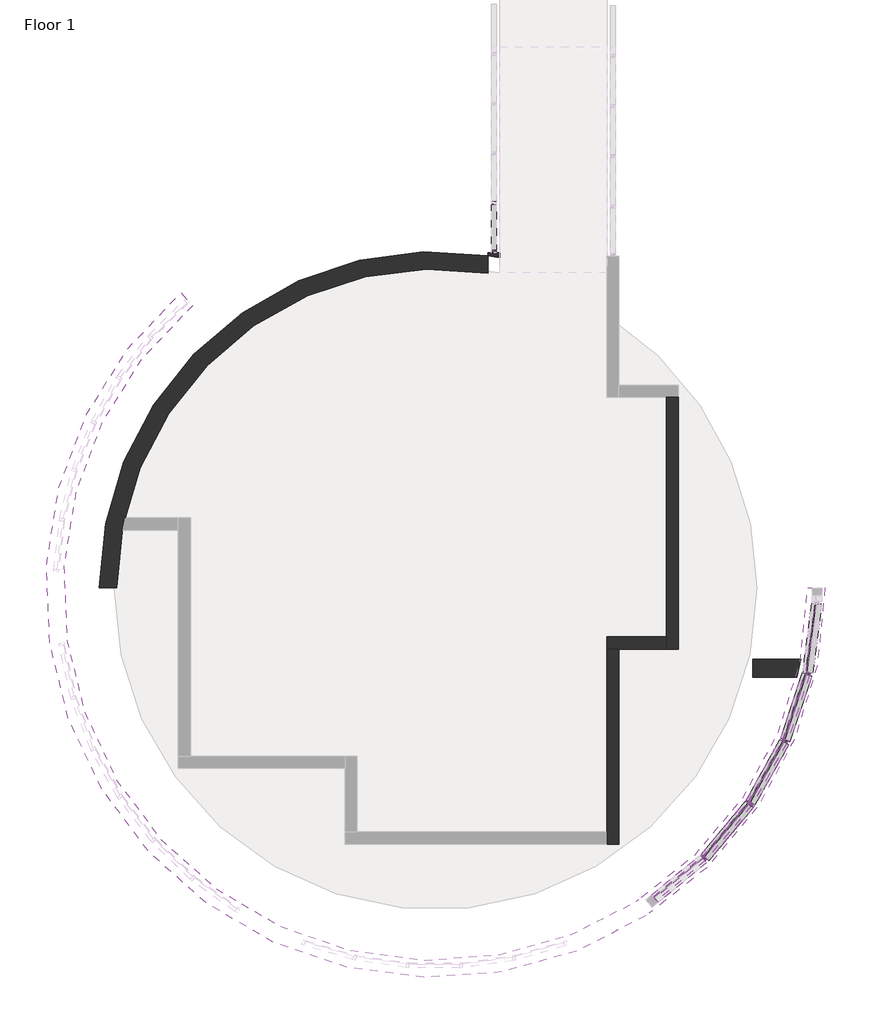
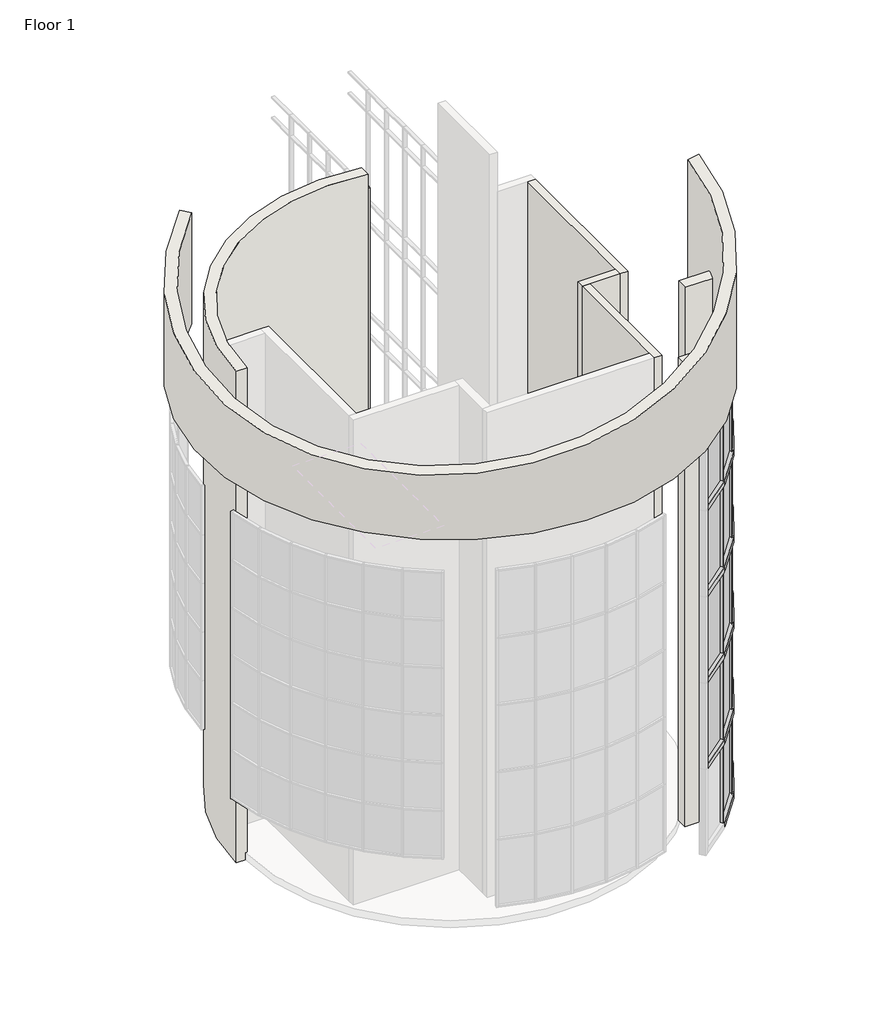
# One storey, part 6 of 11: 61 members, 24 plates, 8 walls.
"""IFC4 building model written with IfcOpenShell, lengths in millimetres."""

from ifc_helpers import new_model, si_unit, point, frame, frame_2d, origin, origin_with_axes, place, context, project, spatial, polyline, circle_curve, ellipse_curve, trimmed, segment, composite_curve, outline, extrude, faceted_brep, transform, mapped, element, save
from ifc_brep_helpers import plane_surface, cylinder_surface, revolved_surface, advanced_brep
from components import member_60e3aab2, member_5d07894b, member_c86c7f77, member_810865a4, member_5825c931, member_c2dac231, member_b9454cfc, member_923d5781, member_c17f1be2, member_d2e7e466, member_bbf28ac8, member_5c8c9790, member_136c1585, member_707c4438, member_7751821a, member_84ccbaea, member_b2bf14c7, system_panel_glazed_00caa3d2, system_panel_glazed_ff630af2, system_panel_glazed_6c0831e3, system_panel_glazed_52effc56, system_panel_glazed_ae73c78b

model = new_model("IFC4")

# Units and contexts
model_context = context("Model", 3, world=origin())
ifc_project = project(units=[si_unit("LENGTHUNIT", "METRE", prefix="MILLI")], contexts=[model_context])

# Site, building, storey
site = spatial("IfcSite", under=ifc_project)
building = spatial("IfcBuilding", under=site)
storey = spatial("IfcBuildingStorey", under=building, Name="Floor 1", Elevation=0.0)

# Members
placement = place(None, origin())
member_shape = member_60e3aab2(model_context)
element("IfcMember", 1, ObjectType="Rectangular Mullion1 : 2.5\" x 5\" rectangular", at=placement, inside=storey, context=model_context, shape_type="MappedRepresentation", body=[
    mapped(member_shape, transform((7830.8276119, 27918.5201792, -152.4), x_axis=(0.0, 0.0, -1.0), y_axis=(1.0, 0.0, 0.0), z_axis=(0.0, -1.0, 0.0))),
])
member_2_shape = member_5d07894b(model_context)
element("IfcMember", 2, ObjectType="Rectangular Mullion1 : 2.5\" x 5\" rectangular", at=placement, inside=storey, context=model_context, shape_type="MappedRepresentation", body=[
    mapped(member_2_shape, transform((7830.8276119, 29189.5191429, -88.9), x_axis=(0.0, 1.0, 0.0), y_axis=(1.0, 0.0, 0.0), z_axis=(0.0, 0.0, -1.0))),
])
member_3_shape = member_c86c7f77(model_context)
element("IfcMember", 3, ObjectType="Rectangular Mullion1 : 2.5\" x 5\" rectangular", at=placement, inside=storey, context=model_context, shape_type="MappedRepresentation", body=[
    mapped(member_3_shape, transform((7830.8276119, 29189.5191429, 5486.4), x_axis=(0.0, 0.0, 1.0), y_axis=(1.0, 0.0, 0.0), z_axis=(0.0, 1.0, 0.0))),
])
element("IfcMember", 4, ObjectType="Rectangular Mullion1 : 2.5\" x 5\" rectangular", at=placement, inside=storey, context=model_context, shape_type="MappedRepresentation", body=[
    mapped(member_3_shape, transform((7830.8276119, 29189.5191429, 10210.8), x_axis=(0.0, 0.0, 1.0), y_axis=(1.0, 0.0, 0.0), z_axis=(0.0, 1.0, 0.0))),
])
element("IfcMember", 5, ObjectType="Rectangular Mullion1 : 2.5\" x 5\" rectangular", at=placement, inside=storey, context=model_context, shape_type="MappedRepresentation", body=[
    mapped(member_3_shape, transform((7830.8276119, 29189.5191429, 14935.2), x_axis=(0.0, 0.0, 1.0), y_axis=(1.0, 0.0, 0.0), z_axis=(0.0, 1.0, 0.0))),
])
element("IfcMember", 6, ObjectType="Rectangular Mullion1 : 2.5\" x 5\" rectangular", at=placement, inside=storey, context=model_context, shape_type="MappedRepresentation", body=[
    mapped(member_3_shape, transform((7830.8276119, 29189.5191429, 18745.2), x_axis=(0.0, 0.0, 1.0), y_axis=(1.0, 0.0, 0.0), z_axis=(0.0, 1.0, 0.0))),
])
element("IfcMember", 7, ObjectType="Rectangular Mullion1 : 2.5\" x 5\" rectangular", at=placement, inside=storey, context=model_context, shape_type="MappedRepresentation", body=[
    mapped(member_3_shape, transform((7830.8276119, 29189.5191429, 14020.8), x_axis=(0.0, 0.0, 1.0), y_axis=(1.0, 0.0, 0.0), z_axis=(0.0, 1.0, 0.0))),
])
element("IfcMember", 8, ObjectType="Rectangular Mullion1 : 2.5\" x 5\" rectangular", at=placement, inside=storey, context=model_context, shape_type="MappedRepresentation", body=[
    mapped(member_3_shape, transform((7830.8276119, 29189.5191429, 9296.4), x_axis=(0.0, 0.0, 1.0), y_axis=(1.0, 0.0, 0.0), z_axis=(0.0, 1.0, 0.0))),
])
element("IfcMember", 9, ObjectType="Rectangular Mullion1 : 2.5\" x 5\" rectangular", at=placement, inside=storey, context=model_context, shape_type="MappedRepresentation", body=[
    mapped(member_3_shape, transform((7830.8276119, 29189.5191429, 4572.0), x_axis=(0.0, 0.0, 1.0), y_axis=(1.0, 0.0, 0.0), z_axis=(0.0, 1.0, 0.0))),
])
member_4_shape = member_810865a4(model_context)
element("IfcMember", 10, ObjectType="Rectangular Mullion1 : 2.5\" x 5\" rectangular", at=placement, inside=storey, context=model_context, shape_type="MappedRepresentation", body=[
    mapped(member_4_shape, transform((13215.7892614, 12420.6743891, 0.0), x_axis=(0.7115792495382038, 0.7026058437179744, 0.0), y_axis=(0.7026058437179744, -0.7115792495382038, 0.0), z_axis=(0.0, 0.0, -1.0))),
])
element("IfcMember", 11, ObjectType="Rectangular Mullion1 : 2.5\" x 5\" rectangular", at=placement, inside=storey, context=model_context, shape_type="MappedRepresentation", body=[
    mapped(member_4_shape, transform((15282.1684229, 15418.9839138, 0.0), x_axis=(0.4032933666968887, 0.9150707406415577, 0.0), y_axis=(0.9150707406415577, -0.4032933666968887, 0.0), z_axis=(0.0, 0.0, -1.0))),
])
element("IfcMember", 12, ObjectType="Rectangular Mullion1 : 2.5\" x 5\" rectangular", at=placement, inside=storey, context=model_context, shape_type="MappedRepresentation", body=[
    mapped(member_4_shape, transform((15859.1061134, 17154.3952027, 0.0), x_axis=(0.2248585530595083, 0.9743914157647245, 0.0), y_axis=(0.9743914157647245, -0.2248585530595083, 0.0), z_axis=(0.0, 0.0, -1.0))),
])
member_5_shape = member_5825c931(model_context)
element("IfcMember", 13, ObjectType="Rectangular Mullion1 : 2.5\" x 5\" rectangular", at=placement, inside=storey, context=model_context, shape_type="MappedRepresentation", body=[
    mapped(member_5_shape, transform((14390.5542634, 13822.2580042, 0.0), x_axis=(0.5674685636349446, 0.8233950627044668, 0.0), y_axis=(0.8233950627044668, -0.5674685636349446, 0.0), z_axis=(0.0, 0.0, -1.0))),
])
member_6_shape = member_c2dac231(model_context)
element("IfcMember", 14, ObjectType="Rectangular Mullion1 : 2.5\" x 5\" rectangular", at=placement, inside=storey, context=model_context, shape_type="MappedRepresentation", body=[
    mapped(member_6_shape, transform((13191.1993553, 12400.5895935, 17373.6), x_axis=(0.0, 0.0, 1.0), y_axis=(0.6325919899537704, -0.7744852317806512, 0.0), z_axis=(0.7744852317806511, 0.6325919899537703, 0.0))),
])
member_7_shape = member_b9454cfc(model_context)
element("IfcMember", 15, ObjectType="Rectangular Mullion1 : 2.5\" x 5\" rectangular", at=placement, inside=storey, context=model_context, shape_type="MappedRepresentation", body=[
    mapped(member_7_shape, transform((14370.1590376, 13797.9249554, 17373.6), x_axis=(0.0, 0.0, 1.0), y_axis=(0.7663952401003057, -0.6423693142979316, 0.0), z_axis=(0.6423693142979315, 0.7663952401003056, 0.0))),
])
element("IfcMember", 16, ObjectType="Rectangular Mullion1 : 2.5\" x 5\" rectangular", at=placement, inside=storey, context=model_context, shape_type="MappedRepresentation", body=[
    mapped(member_7_shape, transform((15266.6890104, 15391.2629779, 17373.6), x_axis=(0.0, 0.0, 1.0), y_axis=(0.8731003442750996, -0.4875405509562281, 0.0), z_axis=(0.4875405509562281, 0.8731003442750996, 0.0))),
])
element("IfcMember", 17, ObjectType="Rectangular Mullion1 : 2.5\" x 5\" rectangular", at=placement, inside=storey, context=model_context, shape_type="MappedRepresentation", body=[
    mapped(member_7_shape, transform((15849.089834, 17124.2665345, 17373.6), x_axis=(0.0, 0.0, 1.0), y_axis=(0.9489344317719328, -0.3154733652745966, 0.0), z_axis=(0.3154733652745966, 0.9489344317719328, 0.0))),
])
element("IfcMember", 18, ObjectType="Rectangular Mullion1 : 2.5\" x 5\" rectangular", at=placement, inside=storey, context=model_context, shape_type="MappedRepresentation", body=[
    mapped(member_4_shape, transform((13215.7892614, 12420.6743891, 3657.6), x_axis=(0.7115792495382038, 0.7026058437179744, 0.0), y_axis=(0.7026058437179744, -0.7115792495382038, 0.0), z_axis=(0.0, 0.0, -1.0))),
])
element("IfcMember", 19, ObjectType="Rectangular Mullion1 : 2.5\" x 5\" rectangular", at=placement, inside=storey, context=model_context, shape_type="MappedRepresentation", body=[
    mapped(member_4_shape, transform((13215.7892614, 12420.6743891, 7315.2), x_axis=(0.7115792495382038, 0.7026058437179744, 0.0), y_axis=(0.7026058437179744, -0.7115792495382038, 0.0), z_axis=(0.0, 0.0, -1.0))),
])
element("IfcMember", 20, ObjectType="Rectangular Mullion1 : 2.5\" x 5\" rectangular", at=placement, inside=storey, context=model_context, shape_type="MappedRepresentation", body=[
    mapped(member_4_shape, transform((13215.7892614, 12420.6743891, 10972.8), x_axis=(0.7115792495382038, 0.7026058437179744, 0.0), y_axis=(0.7026058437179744, -0.7115792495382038, 0.0), z_axis=(0.0, 0.0, -1.0))),
])
element("IfcMember", 21, ObjectType="Rectangular Mullion1 : 2.5\" x 5\" rectangular", at=placement, inside=storey, context=model_context, shape_type="MappedRepresentation", body=[
    mapped(member_4_shape, transform((14390.5542634, 13822.2580042, 7315.2), x_axis=(0.5674685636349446, 0.8233950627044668, 0.0), y_axis=(0.8233950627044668, -0.5674685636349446, 0.0), z_axis=(0.0, 0.0, -1.0))),
])
element("IfcMember", 22, ObjectType="Rectangular Mullion1 : 2.5\" x 5\" rectangular", at=placement, inside=storey, context=model_context, shape_type="MappedRepresentation", body=[
    mapped(member_4_shape, transform((14390.5542634, 13822.2580042, 10972.8), x_axis=(0.5674685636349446, 0.8233950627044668, 0.0), y_axis=(0.8233950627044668, -0.5674685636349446, 0.0), z_axis=(0.0, 0.0, -1.0))),
])
element("IfcMember", 23, ObjectType="Rectangular Mullion1 : 2.5\" x 5\" rectangular", at=placement, inside=storey, context=model_context, shape_type="MappedRepresentation", body=[
    mapped(member_4_shape, transform((15282.1684229, 15418.9839138, 3657.6), x_axis=(0.4032933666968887, 0.9150707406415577, 0.0), y_axis=(0.9150707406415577, -0.4032933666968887, 0.0), z_axis=(0.0, 0.0, -1.0))),
])
element("IfcMember", 24, ObjectType="Rectangular Mullion1 : 2.5\" x 5\" rectangular", at=placement, inside=storey, context=model_context, shape_type="MappedRepresentation", body=[
    mapped(member_4_shape, transform((15282.1684229, 15418.9839138, 7315.2), x_axis=(0.4032933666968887, 0.9150707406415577, 0.0), y_axis=(0.9150707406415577, -0.4032933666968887, 0.0), z_axis=(0.0, 0.0, -1.0))),
])
element("IfcMember", 25, ObjectType="Rectangular Mullion1 : 2.5\" x 5\" rectangular", at=placement, inside=storey, context=model_context, shape_type="MappedRepresentation", body=[
    mapped(member_4_shape, transform((15282.1684229, 15418.9839138, 10972.8), x_axis=(0.4032933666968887, 0.9150707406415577, 0.0), y_axis=(0.9150707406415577, -0.4032933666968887, 0.0), z_axis=(0.0, 0.0, -1.0))),
])
element("IfcMember", 26, ObjectType="Rectangular Mullion1 : 2.5\" x 5\" rectangular", at=placement, inside=storey, context=model_context, shape_type="MappedRepresentation", body=[
    mapped(member_4_shape, transform((15859.1061134, 17154.3952027, 3657.6), x_axis=(0.2248585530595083, 0.9743914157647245, 0.0), y_axis=(0.9743914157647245, -0.2248585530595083, 0.0), z_axis=(0.0, 0.0, -1.0))),
])
element("IfcMember", 27, ObjectType="Rectangular Mullion1 : 2.5\" x 5\" rectangular", at=placement, inside=storey, context=model_context, shape_type="MappedRepresentation", body=[
    mapped(member_4_shape, transform((15859.1061134, 17154.3952027, 7315.2), x_axis=(0.2248585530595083, 0.9743914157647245, 0.0), y_axis=(0.9743914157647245, -0.2248585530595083, 0.0), z_axis=(0.0, 0.0, -1.0))),
])
element("IfcMember", 28, ObjectType="Rectangular Mullion1 : 2.5\" x 5\" rectangular", at=placement, inside=storey, context=model_context, shape_type="MappedRepresentation", body=[
    mapped(member_4_shape, transform((15859.1061134, 17154.3952027, 10972.8), x_axis=(0.2248585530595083, 0.9743914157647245, 0.0), y_axis=(0.9743914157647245, -0.2248585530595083, 0.0), z_axis=(0.0, 0.0, -1.0))),
])
member_8_shape = member_923d5781(model_context)
element("IfcMember", 29, ObjectType="Rectangular Mullion1 : 2.5\" x 5\" rectangular", at=placement, inside=storey, context=model_context, shape_type="MappedRepresentation", body=[
    mapped(member_8_shape, transform((13215.7892614, 12420.6743891, 14630.4), x_axis=(0.7115792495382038, 0.7026058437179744, 0.0), y_axis=(0.7026058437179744, -0.7115792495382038, 0.0), z_axis=(0.0, 0.0, -1.0))),
])
element("IfcMember", 30, ObjectType="Rectangular Mullion1 : 2.5\" x 5\" rectangular", at=placement, inside=storey, context=model_context, shape_type="MappedRepresentation", body=[
    mapped(member_8_shape, transform((14390.5542634, 13822.2580042, 14630.4), x_axis=(0.5674685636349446, 0.8233950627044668, 0.0), y_axis=(0.8233950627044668, -0.5674685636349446, 0.0), z_axis=(0.0, 0.0, -1.0))),
])
element("IfcMember", 31, ObjectType="Rectangular Mullion1 : 2.5\" x 5\" rectangular", at=placement, inside=storey, context=model_context, shape_type="MappedRepresentation", body=[
    mapped(member_8_shape, transform((15282.1684229, 15418.9839138, 14630.4), x_axis=(0.4032933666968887, 0.9150707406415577, 0.0), y_axis=(0.9150707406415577, -0.4032933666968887, 0.0), z_axis=(0.0, 0.0, -1.0))),
])
element("IfcMember", 32, ObjectType="Rectangular Mullion1 : 2.5\" x 5\" rectangular", at=placement, inside=storey, context=model_context, shape_type="MappedRepresentation", body=[
    mapped(member_8_shape, transform((15859.1061134, 17154.3952027, 14630.4), x_axis=(0.2248585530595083, 0.9743914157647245, 0.0), y_axis=(0.9743914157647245, -0.2248585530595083, 0.0), z_axis=(0.0, 0.0, -1.0))),
])
element("IfcMember", 33, ObjectType="Rectangular Mullion1 : 2.5\" x 5\" rectangular", at=placement, inside=storey, context=model_context, shape_type="MappedRepresentation", body=[
    mapped(member_5_shape, transform((14390.5542634, 13822.2580042, 3759.2), x_axis=(0.5674685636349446, 0.8233950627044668, 0.0), y_axis=(0.8233950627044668, -0.5674685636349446, 0.0), z_axis=(0.0, 0.0, -1.0))),
])
member_9_shape = member_c17f1be2(model_context)
element("IfcMember", 34, ObjectType="Rectangular Mullion1 : 2.5\" x 5\" rectangular", at=placement, inside=storey, context=model_context, shape_type="MappedRepresentation", body=[
    mapped(member_9_shape, transform((7830.8276119, 27918.5201792, 19596.1), x_axis=(0.0, -1.0, 0.0), y_axis=(1.0, 0.0, 0.0), z_axis=(0.0, 0.0, 1.0))),
])
member_10_shape = member_d2e7e466(model_context)
element("IfcMember", 35, ObjectType="Rectangular Mullion1 : 2.5\" x 5\" rectangular", at=placement, inside=storey, context=model_context, shape_type="MappedRepresentation", body=[
    mapped(member_10_shape, transform((7830.8276119, 27918.5201792, 5454.65), x_axis=(0.0, -1.0, 0.0), y_axis=(1.0, 0.0, 0.0), z_axis=(0.0, 0.0, 1.0))),
])
element("IfcMember", 36, ObjectType="Rectangular Mullion1 : 2.5\" x 5\" rectangular", at=placement, inside=storey, context=model_context, shape_type="MappedRepresentation", body=[
    mapped(member_10_shape, transform((7830.8276119, 27918.5201792, 10179.05), x_axis=(0.0, -1.0, 0.0), y_axis=(1.0, 0.0, 0.0), z_axis=(0.0, 0.0, 1.0))),
])
element("IfcMember", 37, ObjectType="Rectangular Mullion1 : 2.5\" x 5\" rectangular", at=placement, inside=storey, context=model_context, shape_type="MappedRepresentation", body=[
    mapped(member_10_shape, transform((7830.8276119, 27918.5201792, 14903.45), x_axis=(0.0, -1.0, 0.0), y_axis=(1.0, 0.0, 0.0), z_axis=(0.0, 0.0, 1.0))),
])
member_11_shape = member_bbf28ac8(model_context)
element("IfcMember", 38, ObjectType="Rectangular Mullion1 : 2.5\" x 5\" rectangular", at=placement, inside=storey, context=model_context, shape_type="MappedRepresentation", body=[
    mapped(member_11_shape, transform((7830.8276119, 27918.5201792, 18713.45), x_axis=(0.0, -1.0, 0.0), y_axis=(1.0, 0.0, 0.0), z_axis=(0.0, 0.0, 1.0))),
])
element("IfcMember", 39, ObjectType="Rectangular Mullion1 : 2.5\" x 5\" rectangular", at=placement, inside=storey, context=model_context, shape_type="MappedRepresentation", body=[
    mapped(member_11_shape, transform((7830.8276119, 27918.5201792, 13989.05), x_axis=(0.0, -1.0, 0.0), y_axis=(1.0, 0.0, 0.0), z_axis=(0.0, 0.0, 1.0))),
])
element("IfcMember", 40, ObjectType="Rectangular Mullion1 : 2.5\" x 5\" rectangular", at=placement, inside=storey, context=model_context, shape_type="MappedRepresentation", body=[
    mapped(member_11_shape, transform((7830.8276119, 27918.5201792, 9264.65), x_axis=(0.0, -1.0, 0.0), y_axis=(1.0, 0.0, 0.0), z_axis=(0.0, 0.0, 1.0))),
])
member_12_shape = member_5c8c9790(model_context)
element("IfcMember", 41, ObjectType="Rectangular Mullion1 : 2.5\" x 5\" rectangular", at=placement, inside=storey, context=model_context, shape_type="MappedRepresentation", body=[
    mapped(member_12_shape, transform((7830.8276119, 27918.5201792, 4540.25), x_axis=(0.0, -1.0, 0.0), y_axis=(1.0, 0.0, 0.0), z_axis=(0.0, 0.0, 1.0))),
])
member_13_shape = member_136c1585(model_context)
element("IfcMember", 42, ObjectType="Rectangular Mullion1 : 8\" x 10\" rectangular", at=placement, inside=storey, context=model_context, shape_type="MappedRepresentation", body=[
    mapped(member_13_shape, transform((15863.3051047, 17185.866316, 0.0), x_axis=(0.0, 0.0, -1.0), y_axis=(0.9912161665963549, -0.13225169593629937, 0.0), z_axis=(-0.13225169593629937, -0.9912161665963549, 0.0))),
])
element("IfcMember", 43, ObjectType="Rectangular Mullion1 : 8\" x 10\" rectangular", at=placement, inside=storey, context=model_context, shape_type="MappedRepresentation", body=[
    mapped(member_13_shape, transform((15292.1847023, 15449.112582, 0.0), x_axis=(0.0, 0.0, -1.0), y_axis=(0.948934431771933, -0.3154733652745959, 0.0), z_axis=(-0.31547336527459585, -0.9489344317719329, 0.0))),
])
element("IfcMember", 44, ObjectType="Rectangular Mullion1 : 8\" x 10\" rectangular", at=placement, inside=storey, context=model_context, shape_type="MappedRepresentation", body=[
    mapped(member_13_shape, transform((14406.0336758, 13849.9789402, 0.0), x_axis=(0.0, 0.0, -1.0), y_axis=(0.8731003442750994, -0.48754055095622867, 0.0), z_axis=(-0.4875405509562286, -0.8731003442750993, 0.0))),
])
element("IfcMember", 45, ObjectType="Rectangular Mullion1 : 8\" x 10\" rectangular", at=placement, inside=storey, context=model_context, shape_type="MappedRepresentation", body=[
    mapped(member_13_shape, transform((13236.1844871, 12445.007438, 0.0), x_axis=(0.0, 0.0, -1.0), y_axis=(0.7663952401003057, -0.6423693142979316, 0.0), z_axis=(-0.6423693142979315, -0.7663952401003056, 0.0))),
])
member_14_shape = member_707c4438(model_context)
element("IfcMember", 46, ObjectType="Rectangular Mullion1 : 8\" x 10\" rectangular", at=placement, inside=storey, context=model_context, shape_type="MappedRepresentation", body=[
    mapped(member_14_shape, transform((15849.089834, 17124.2665345, 3657.6), x_axis=(0.0, 0.0, 1.0), y_axis=(0.948934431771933, -0.3154733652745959, 0.0), z_axis=(0.31547336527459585, 0.9489344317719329, 0.0))),
])
element("IfcMember", 47, ObjectType="Rectangular Mullion1 : 8\" x 10\" rectangular", at=placement, inside=storey, context=model_context, shape_type="MappedRepresentation", body=[
    mapped(member_14_shape, transform((15849.089834, 17124.2665345, 7315.2), x_axis=(0.0, 0.0, 1.0), y_axis=(0.9489344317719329, -0.31547336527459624, 0.0), z_axis=(0.3154733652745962, 0.9489344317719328, 0.0))),
])
element("IfcMember", 48, ObjectType="Rectangular Mullion1 : 8\" x 10\" rectangular", at=placement, inside=storey, context=model_context, shape_type="MappedRepresentation", body=[
    mapped(member_14_shape, transform((15849.089834, 17124.2665345, 10972.8), x_axis=(0.0, 0.0, 1.0), y_axis=(0.9489344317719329, -0.31547336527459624, 0.0), z_axis=(0.3154733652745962, 0.9489344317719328, 0.0))),
])
element("IfcMember", 49, ObjectType="Rectangular Mullion1 : 8\" x 10\" rectangular", at=placement, inside=storey, context=model_context, shape_type="MappedRepresentation", body=[
    mapped(member_14_shape, transform((15266.6890104, 15391.2629779, 10972.8), x_axis=(0.0, 0.0, 1.0), y_axis=(0.8731003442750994, -0.48754055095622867, 0.0), z_axis=(0.4875405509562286, 0.8731003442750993, 0.0))),
])
element("IfcMember", 50, ObjectType="Rectangular Mullion1 : 8\" x 10\" rectangular", at=placement, inside=storey, context=model_context, shape_type="MappedRepresentation", body=[
    mapped(member_14_shape, transform((14370.1590376, 13797.9249554, 10972.8), x_axis=(0.0, 0.0, 1.0), y_axis=(0.7663952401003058, -0.6423693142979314, 0.0), z_axis=(0.6423693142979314, 0.7663952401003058, 0.0))),
])
member_15_shape = member_7751821a(model_context)
element("IfcMember", 51, ObjectType="Rectangular Mullion1 : 8\" x 10\" rectangular", at=placement, inside=storey, context=model_context, shape_type="MappedRepresentation", body=[
    mapped(member_15_shape, transform((15266.6890104, 15391.2629779, 3657.6), x_axis=(0.0, 0.0, 1.0), y_axis=(0.8731003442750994, -0.48754055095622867, 0.0), z_axis=(0.4875405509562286, 0.8731003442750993, 0.0))),
])
member_16_shape = member_84ccbaea(model_context)
element("IfcMember", 52, ObjectType="Rectangular Mullion1 : 8\" x 10\" rectangular", at=placement, inside=storey, context=model_context, shape_type="MappedRepresentation", body=[
    mapped(member_16_shape, transform((14390.5542634, 13822.2580042, 3657.6), x_axis=(0.0, 0.0, 1.0), y_axis=(0.7663952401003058, -0.6423693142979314, 0.0), z_axis=(0.6423693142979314, 0.7663952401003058, 0.0))),
])
member_17_shape = member_b2bf14c7(model_context)
element("IfcMember", 53, ObjectType="Rectangular Mullion1 : 8\" x 10\" rectangular", at=placement, inside=storey, context=model_context, shape_type="MappedRepresentation", body=[
    mapped(member_17_shape, transform((13191.1993553, 12400.5895935, 3657.6), x_axis=(0.0, 0.0, 1.0), y_axis=(0.6325919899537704, -0.7744852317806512, 0.0), z_axis=(0.7744852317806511, 0.6325919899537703, 0.0))),
])
element("IfcMember", 54, ObjectType="Rectangular Mullion1 : 8\" x 10\" rectangular", at=placement, inside=storey, context=model_context, shape_type="MappedRepresentation", body=[
    mapped(member_17_shape, transform((13191.1993553, 12400.5895935, 7315.2), x_axis=(0.0, 0.0, 1.0), y_axis=(0.6325919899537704, -0.7744852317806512, 0.0), z_axis=(0.7744852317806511, 0.6325919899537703, 0.0))),
])
element("IfcMember", 55, ObjectType="Rectangular Mullion1 : 8\" x 10\" rectangular", at=placement, inside=storey, context=model_context, shape_type="MappedRepresentation", body=[
    mapped(member_17_shape, transform((13191.1993553, 12400.5895935, 10972.8), x_axis=(0.0, 0.0, 1.0), y_axis=(0.6325919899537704, -0.7744852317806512, 0.0), z_axis=(0.7744852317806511, 0.6325919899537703, 0.0))),
])
element("IfcMember", 56, ObjectType="Rectangular Mullion1 : 8\" x 10\" rectangular", at=placement, inside=storey, context=model_context, shape_type="MappedRepresentation", body=[
    mapped(member_14_shape, transform((15266.6890104, 15391.2629779, 7315.2), x_axis=(0.0, 0.0, 1.0), y_axis=(0.8731003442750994, -0.48754055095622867, 0.0), z_axis=(0.4875405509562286, 0.8731003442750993, 0.0))),
])
element("IfcMember", 57, ObjectType="Rectangular Mullion1 : 8\" x 10\" rectangular", at=placement, inside=storey, context=model_context, shape_type="MappedRepresentation", body=[
    mapped(member_14_shape, transform((14370.1590376, 13797.9249554, 7315.2), x_axis=(0.0, 0.0, 1.0), y_axis=(0.7663952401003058, -0.6423693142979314, 0.0), z_axis=(0.6423693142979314, 0.7663952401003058, 0.0))),
])
element("IfcMember", 58, ObjectType="Rectangular Mullion1 : 8\" x 10\" rectangular", at=placement, inside=storey, context=model_context, shape_type="MappedRepresentation", body=[
    mapped(member_14_shape, transform((15849.089834, 17124.2665345, 14630.4), x_axis=(0.0, 0.0, 1.0), y_axis=(0.9489344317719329, -0.31547336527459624, 0.0), z_axis=(0.3154733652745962, 0.9489344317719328, 0.0))),
])
element("IfcMember", 59, ObjectType="Rectangular Mullion1 : 8\" x 10\" rectangular", at=placement, inside=storey, context=model_context, shape_type="MappedRepresentation", body=[
    mapped(member_14_shape, transform((15266.6890104, 15391.2629779, 14630.4), x_axis=(0.0, 0.0, 1.0), y_axis=(0.8731003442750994, -0.48754055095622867, 0.0), z_axis=(0.4875405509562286, 0.8731003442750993, 0.0))),
])
element("IfcMember", 60, ObjectType="Rectangular Mullion1 : 8\" x 10\" rectangular", at=placement, inside=storey, context=model_context, shape_type="MappedRepresentation", body=[
    mapped(member_14_shape, transform((14370.1590376, 13797.9249554, 14630.4), x_axis=(0.0, 0.0, 1.0), y_axis=(0.7663952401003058, -0.6423693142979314, 0.0), z_axis=(0.6423693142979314, 0.7663952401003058, 0.0))),
])
element("IfcMember", 61, ObjectType="Rectangular Mullion1 : 8\" x 10\" rectangular", at=placement, inside=storey, context=model_context, shape_type="MappedRepresentation", body=[
    mapped(member_17_shape, transform((13191.1993553, 12400.5895935, 14630.4), x_axis=(0.0, 0.0, 1.0), y_axis=(0.6325919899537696, -0.7744852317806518, 0.0), z_axis=(0.7744852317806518, 0.6325919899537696, 0.0))),
])

# Plates
system_panel_glazed_shape = system_panel_glazed_00caa3d2(model_context)
element("IfcPlate", 62, ObjectType="System Panel : Glazed", at=placement, inside=storey, context=model_context, shape_type="MappedRepresentation", body=[
    mapped(system_panel_glazed_shape, transform((13803.1717624, 13121.4661967, 203.2), x_axis=(0.6423693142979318, 0.7663952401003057, 0.0), y_axis=(-0.7663952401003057, 0.6423693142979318, 0.0), z_axis=(0.0, 0.0, 1.0))),
])
element("IfcPlate", 63, ObjectType="System Panel : Glazed", at=placement, inside=storey, context=model_context, shape_type="MappedRepresentation", body=[
    mapped(system_panel_glazed_shape, transform((14836.3613431, 14620.620959, 203.2), x_axis=(0.4875405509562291, 0.8731003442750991, 0.0), y_axis=(-0.8731003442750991, 0.4875405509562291, 0.0), z_axis=(0.0, 0.0, 1.0))),
])
element("IfcPlate", 64, ObjectType="System Panel : Glazed", at=placement, inside=storey, context=model_context, shape_type="MappedRepresentation", body=[
    mapped(system_panel_glazed_shape, transform((15570.6372681, 16286.6895583, 203.2), x_axis=(0.3154733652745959, 0.948934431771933, 0.0), y_axis=(-0.948934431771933, 0.3154733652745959, 0.0), z_axis=(0.0, 0.0, 1.0))),
])
element("IfcPlate", 65, ObjectType="System Panel : Glazed", at=placement, inside=storey, context=model_context, shape_type="MappedRepresentation", body=[
    mapped(system_panel_glazed_shape, transform((15980.0370641, 18060.7632654, 203.2), x_axis=(0.1322516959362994, 0.9912161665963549, 0.0), y_axis=(-0.9912161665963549, 0.1322516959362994, 0.0), z_axis=(0.0, 0.0, 1.0))),
])
system_panel_glazed_2_shape = system_panel_glazed_ff630af2(model_context)
element("IfcPlate", 66, ObjectType="System Panel : Glazed", at=placement, inside=storey, context=model_context, shape_type="MappedRepresentation", body=[
    mapped(system_panel_glazed_2_shape, transform((12573.9927082, 11896.4612188, 3759.2), x_axis=(0.7744852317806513, 0.6325919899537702, 0.0), y_axis=(-0.6325919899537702, 0.7744852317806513, 0.0), z_axis=(0.0, 0.0, 1.0))),
])
element("IfcPlate", 67, ObjectType="System Panel : Glazed", at=placement, inside=storey, context=model_context, shape_type="MappedRepresentation", body=[
    mapped(system_panel_glazed_2_shape, transform((12573.9927082, 11896.4612188, 7416.8), x_axis=(0.7744852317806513, 0.6325919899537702, 0.0), y_axis=(-0.6325919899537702, 0.7744852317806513, 0.0), z_axis=(0.0, 0.0, 1.0))),
])
element("IfcPlate", 68, ObjectType="System Panel : Glazed", at=placement, inside=storey, context=model_context, shape_type="MappedRepresentation", body=[
    mapped(system_panel_glazed_2_shape, transform((12573.9927082, 11896.4612188, 11074.4), x_axis=(0.7744852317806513, 0.6325919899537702, 0.0), y_axis=(-0.6325919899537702, 0.7744852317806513, 0.0), z_axis=(0.0, 0.0, 1.0))),
])
system_panel_glazed_3_shape = system_panel_glazed_6c0831e3(model_context)
element("IfcPlate", 69, ObjectType="System Panel : Glazed", at=placement, inside=storey, context=model_context, shape_type="MappedRepresentation", body=[
    mapped(system_panel_glazed_3_shape, transform((13803.1717624, 13121.4661967, 3759.2), x_axis=(0.6423693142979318, 0.7663952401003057, 0.0), y_axis=(-0.7663952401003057, 0.6423693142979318, 0.0), z_axis=(0.0, 0.0, 1.0))),
])
element("IfcPlate", 70, ObjectType="System Panel : Glazed", at=placement, inside=storey, context=model_context, shape_type="MappedRepresentation", body=[
    mapped(system_panel_glazed_3_shape, transform((14836.3613431, 14620.620959, 3759.2), x_axis=(0.4875405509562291, 0.8731003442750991, 0.0), y_axis=(-0.8731003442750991, 0.4875405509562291, 0.0), z_axis=(0.0, 0.0, 1.0))),
])
element("IfcPlate", 71, ObjectType="System Panel : Glazed", at=placement, inside=storey, context=model_context, shape_type="MappedRepresentation", body=[
    mapped(system_panel_glazed_3_shape, transform((15570.6372681, 16286.6895583, 3759.2), x_axis=(0.3154733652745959, 0.948934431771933, 0.0), y_axis=(-0.948934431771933, 0.3154733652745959, 0.0), z_axis=(0.0, 0.0, 1.0))),
])
element("IfcPlate", 72, ObjectType="System Panel : Glazed", at=placement, inside=storey, context=model_context, shape_type="MappedRepresentation", body=[
    mapped(system_panel_glazed_3_shape, transform((15980.0370641, 18060.7632654, 3759.2), x_axis=(0.1322516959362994, 0.9912161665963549, 0.0), y_axis=(-0.9912161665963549, 0.1322516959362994, 0.0), z_axis=(0.0, 0.0, 1.0))),
])
element("IfcPlate", 73, ObjectType="System Panel : Glazed", at=placement, inside=storey, context=model_context, shape_type="MappedRepresentation", body=[
    mapped(system_panel_glazed_3_shape, transform((13803.1717624, 13121.4661967, 7416.8), x_axis=(0.6423693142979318, 0.7663952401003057, 0.0), y_axis=(-0.7663952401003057, 0.6423693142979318, 0.0), z_axis=(0.0, 0.0, 1.0))),
])
element("IfcPlate", 74, ObjectType="System Panel : Glazed", at=placement, inside=storey, context=model_context, shape_type="MappedRepresentation", body=[
    mapped(system_panel_glazed_3_shape, transform((14836.3613431, 14620.620959, 7416.8), x_axis=(0.4875405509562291, 0.8731003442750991, 0.0), y_axis=(-0.8731003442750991, 0.4875405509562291, 0.0), z_axis=(0.0, 0.0, 1.0))),
])
element("IfcPlate", 75, ObjectType="System Panel : Glazed", at=placement, inside=storey, context=model_context, shape_type="MappedRepresentation", body=[
    mapped(system_panel_glazed_3_shape, transform((15570.6372681, 16286.6895583, 7416.8), x_axis=(0.3154733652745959, 0.948934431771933, 0.0), y_axis=(-0.948934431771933, 0.3154733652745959, 0.0), z_axis=(0.0, 0.0, 1.0))),
])
element("IfcPlate", 76, ObjectType="System Panel : Glazed", at=placement, inside=storey, context=model_context, shape_type="MappedRepresentation", body=[
    mapped(system_panel_glazed_3_shape, transform((15980.0370641, 18060.7632654, 7416.8), x_axis=(0.1322516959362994, 0.9912161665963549, 0.0), y_axis=(-0.9912161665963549, 0.1322516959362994, 0.0), z_axis=(0.0, 0.0, 1.0))),
])
element("IfcPlate", 77, ObjectType="System Panel : Glazed", at=placement, inside=storey, context=model_context, shape_type="MappedRepresentation", body=[
    mapped(system_panel_glazed_3_shape, transform((13803.1717624, 13121.4661967, 11074.4), x_axis=(0.6423693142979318, 0.7663952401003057, 0.0), y_axis=(-0.7663952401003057, 0.6423693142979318, 0.0), z_axis=(0.0, 0.0, 1.0))),
])
element("IfcPlate", 78, ObjectType="System Panel : Glazed", at=placement, inside=storey, context=model_context, shape_type="MappedRepresentation", body=[
    mapped(system_panel_glazed_3_shape, transform((14836.3613431, 14620.620959, 11074.4), x_axis=(0.4875405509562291, 0.8731003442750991, 0.0), y_axis=(-0.8731003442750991, 0.4875405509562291, 0.0), z_axis=(0.0, 0.0, 1.0))),
])
element("IfcPlate", 79, ObjectType="System Panel : Glazed", at=placement, inside=storey, context=model_context, shape_type="MappedRepresentation", body=[
    mapped(system_panel_glazed_3_shape, transform((15570.6372681, 16286.6895583, 11074.4), x_axis=(0.3154733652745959, 0.948934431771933, 0.0), y_axis=(-0.948934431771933, 0.3154733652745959, 0.0), z_axis=(0.0, 0.0, 1.0))),
])
element("IfcPlate", 80, ObjectType="System Panel : Glazed", at=placement, inside=storey, context=model_context, shape_type="MappedRepresentation", body=[
    mapped(system_panel_glazed_3_shape, transform((15980.0370641, 18060.7632654, 11074.4), x_axis=(0.1322516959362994, 0.9912161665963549, 0.0), y_axis=(-0.9912161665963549, 0.1322516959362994, 0.0), z_axis=(0.0, 0.0, 1.0))),
])
system_panel_glazed_4_shape = system_panel_glazed_52effc56(model_context)
element("IfcPlate", 81, ObjectType="System Panel : Glazed", at=placement, inside=storey, context=model_context, shape_type="MappedRepresentation", body=[
    mapped(system_panel_glazed_4_shape, transform((12573.9927082, 11896.4612188, 14732.0), x_axis=(0.7744852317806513, 0.6325919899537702, 0.0), y_axis=(-0.6325919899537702, 0.7744852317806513, 0.0), z_axis=(0.0, 0.0, 1.0))),
])
system_panel_glazed_5_shape = system_panel_glazed_ae73c78b(model_context)
element("IfcPlate", 82, ObjectType="System Panel : Glazed", at=placement, inside=storey, context=model_context, shape_type="MappedRepresentation", body=[
    mapped(system_panel_glazed_5_shape, transform((13803.1717624, 13121.4661967, 14732.0), x_axis=(0.6423693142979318, 0.7663952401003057, 0.0), y_axis=(-0.7663952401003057, 0.6423693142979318, 0.0), z_axis=(0.0, 0.0, 1.0))),
])
element("IfcPlate", 83, ObjectType="System Panel : Glazed", at=placement, inside=storey, context=model_context, shape_type="MappedRepresentation", body=[
    mapped(system_panel_glazed_5_shape, transform((14836.3613431, 14620.620959, 14732.0), x_axis=(0.4875405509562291, 0.8731003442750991, 0.0), y_axis=(-0.8731003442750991, 0.4875405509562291, 0.0), z_axis=(0.0, 0.0, 1.0))),
])
element("IfcPlate", 84, ObjectType="System Panel : Glazed", at=placement, inside=storey, context=model_context, shape_type="MappedRepresentation", body=[
    mapped(system_panel_glazed_5_shape, transform((15570.6372681, 16286.6895583, 14732.0), x_axis=(0.31547336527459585, 0.948934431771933, 0.0), y_axis=(-0.948934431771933, 0.31547336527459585, 0.0), z_axis=(0.0, 0.0, 1.0))),
])
element("IfcPlate", 85, ObjectType="System Panel : Glazed", at=placement, inside=storey, context=model_context, shape_type="MappedRepresentation", body=[
    mapped(system_panel_glazed_5_shape, transform((15980.0370641, 18060.7632654, 14732.0), x_axis=(0.13225169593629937, 0.9912161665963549, 0.0), y_axis=(-0.9912161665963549, 0.13225169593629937, 0.0), z_axis=(0.0, 0.0, 1.0))),
])

# Walls
element("IfcWall", 86, ObjectType="Stone on CMU", at=placement, inside=storey, context=model_context, shape_type="SweptSolid", body=[
    extrude(outline(composite_curve([segment(polyline([(15586.1958424, 17057.2307105), (14458.2317878, 17057.2307105), (14458.2317878, 17511.2557105), (15686.580492, 17511.2557105)]), True, "CONTINUOUS"), segment(trimmed(circle_curve(frame_2d((6332.5692024, 19341.311889)), 9531.35), [point((15686.580492, 17511.2557105))], [point((15586.1958424, 17057.2307105))], False, "CARTESIAN"), True, "CONTINUOUS")], self_intersect=False)), origin_with_axes(), (0.0, 0.0, 1.0), 19659.6),
])
element("IfcWall", 87, ObjectType="Stone on CMU", at=placement, inside=storey, context=model_context, shape_type="SweptSolid", body=[
    extrude(outline(composite_curve([segment(polyline([(13504.3306702, 13063.3766973), (12132.9363096, 13063.3766973), (12132.9363096, 13517.4016973), (13877.6803945, 13517.4016973)]), True, "CONTINUOUS"), segment(trimmed(circle_curve(frame_2d((6332.5692024, 19341.311889)), 9531.35), [point((13877.6803945, 13517.4016973))], [point((13504.3306702, 13063.3766973))], False, "CARTESIAN"), True, "CONTINUOUS")], self_intersect=False)), origin_with_axes(), (0.0, 0.0, 1.0), 19659.6),
])
element("IfcWall", 88, ObjectType="a_Mtl panel on Mtl stud", at=placement, inside=storey, context=model_context, shape_type="SweptSolid", body=[
    extrude(outline(composite_curve([segment(polyline([(7986.4026119, 27918.5201792), (7986.4026119, 27785.1234168)]), True, "CONTINUOUS"), segment(trimmed(circle_curve(frame_2d((6332.5692024, 19341.311889)), 8604.25), [point((7986.4026119, 27785.1234168))], [point((7675.2526119, 27840.1541234))], True, "CARTESIAN"), True, "CONTINUOUS"), segment(polyline([(7675.2526119, 27840.1541234), (7675.2526119, 27918.5201792), (7986.4026119, 27918.5201792)]), True, "CONTINUOUS")], self_intersect=False)), frame((0.0, 0.0, -304.8), z_axis=(0.0, 0.0, 1.0), x_axis=(1.0, 0.0, 0.0)), (0.0, 0.0, 1.0), 19964.4),
])
element("IfcWall", 89, ObjectType="a_Mtl panel on Mtl stud", at=placement, inside=storey, context=model_context, shape_type="Brep", body=[
    faceted_brep([(12247.2526119, 24214.936889, 0.0), (12247.2526119, 18086.5267299, 0.0), (12247.2526119, 17775.3767299, 0.0), (12247.2526119, 17775.3767299, 20574.0), (12247.2526119, 18086.5267299, 20574.0), (12247.2526119, 24214.936889, 20574.0), (12558.4026119, 24214.936889, 0.0), (12558.4026119, 24214.936889, 20574.0), (12558.4026119, 17775.3767299, 20574.0), (12558.4026119, 17775.3767299, 0.0)], [[[0, 1, 2, 3, 4, 5]], [[6, 7, 8, 9]], [[2, 1, 0, 6, 9]], [[5, 4, 3, 8, 7]], [[3, 2, 9, 8]], [[0, 5, 7, 6]]]),
])
element("IfcWall", 90, ObjectType="a_Mtl panel on Mtl stud", at=placement, inside=storey, context=model_context, shape_type="Brep", body=[
    faceted_brep([(12247.2526119, 18086.5267299, 0.0), (10723.2526119, 18086.5267299, 0.0), (10723.2526119, 18086.5267299, 20574.0), (12247.2526119, 18086.5267299, 20574.0), (12247.2526119, 17775.3767299, 0.0), (12247.2526119, 17775.3767299, 20574.0), (11034.4026119, 17775.3767299, 20574.0), (10723.2526119, 17775.3767299, 20574.0), (10723.2526119, 17775.3767299, 0.0), (11034.4026119, 17775.3767299, 0.0)], [[[0, 1, 2, 3]], [[4, 5, 6, 7, 8, 9]], [[1, 0, 4, 9, 8]], [[3, 2, 7, 6, 5]], [[2, 1, 8, 7]], [[0, 3, 5, 4]]]),
])
element("IfcWall", 91, ObjectType="a_Mtl panel on Mtl stud", at=placement, inside=storey, context=model_context, shape_type="Brep", body=[
    faceted_brep([(10723.2526119, 17775.3767299, 0.0), (10723.2526119, 13096.086889, 0.0), (10723.2526119, 12784.936889, 0.0), (10723.2526119, 12784.936889, 20574.0), (10723.2526119, 13096.086889, 20574.0), (10723.2526119, 17775.3767299, 20574.0), (11034.4026119, 17775.3767299, 0.0), (11034.4026119, 17775.3767299, 20574.0), (11034.4026119, 12784.936889, 20574.0), (11034.4026119, 12784.936889, 0.0)], [[[0, 1, 2, 3, 4, 5]], [[6, 7, 8, 9]], [[2, 1, 0, 6, 9]], [[5, 4, 3, 8, 7]], [[3, 2, 9, 8]], [[0, 5, 7, 6]]]),
])
element("IfcWall", 92, ObjectType="a_ext-dbl-panel 24x24", at=placement, inside=storey, context=model_context, shape_type="AdvancedBrep", body=[
    advanced_brep(
    [(-1827.1807976, 19341.311889, 20574.0), (-1691.455909, 20823.3837032, 20574.0), (-1627.6990969, 21134.5337484, 20574.0), (7675.2526119, 27389.8348171, 20574.0), (7675.2526119, 27840.1541234, 20574.0), (-2271.6807976, 19341.311889, 20574.0), (-1827.1807976, 19341.311889, -304.8), (-2271.6807976, 19341.311889, -304.8), (7675.2526119, 27840.1541234, -304.8), (7675.2526119, 27389.8348171, -304.8), (7675.2526119, 27840.1541234, 19659.6)],
    [
        (0, 1, circle_curve(frame((6332.5692024, 19341.311889, 20574.0), z_axis=(0.0, 0.0, -1.0), x_axis=(1.0, 0.0, 0.0)), 8159.75)),
        (1, 2, circle_curve(frame((6332.5692024, 19341.311889, 20574.0), z_axis=(0.0, 0.0, -1.0), x_axis=(1.0, 0.0, 0.0)), 8159.7497419)),
        (2, 3, circle_curve(frame((6332.5692024, 19341.311889, 20574.0), z_axis=(0.0, 0.0, -1.0), x_axis=(1.0, 0.0, 0.0)), 8159.7497531)),
        (3, 4),
        (4, 5, circle_curve(frame((6332.5692024, 19341.311889, 20574.0), z_axis=(0.0, 0.0, 1.0), x_axis=(1.0, 0.0, 0.0)), 8604.25)),
        (5, 0),
        (6, 7),
        (7, 8, circle_curve(frame((6332.5692024, 19341.311889, -304.8), z_axis=(0.0, 0.0, -1.0), x_axis=(1.0, 0.0, 0.0)), 8604.25)),
        (8, 9),
        (9, 6, circle_curve(frame((6332.5692024, 19341.311889, -304.8), z_axis=(0.0, 0.0, 1.0), x_axis=(1.0, 0.0, 0.0)), 8159.75)),
        (0, 6),
        (9, 3),
        (4, 10),
        (10, 8),
        (7, 5),
    ],
    [
        plane_surface(frame((14492.3192024, 19341.311889, 20574.0), z_axis=(0.0, 0.0, 1.0), x_axis=(0.0, -1.0, 0.0))),
        plane_surface(frame((14492.3192024, 19341.311889, -304.8), z_axis=(0.0, 0.0, -1.0), x_axis=(0.0, 1.0, 0.0))),
        revolved_surface(polyline([(14492.3192024, 19341.311889, -304.8), (14492.3192024, 19341.311889, 20574.0)]), (6332.5692024, 19341.311889, -304.8), (0.0, 0.0, -1.0)),
        cylinder_surface(frame((6332.5692024, 19341.311889, -304.8), z_axis=(0.0, 0.0, 1.0), x_axis=(1.0, 0.0, 0.0)), 8604.25),
        plane_surface(frame((-2271.6807976, 19341.311889, 20574.0), z_axis=(0.0, -1.0, 0.0), x_axis=(0.0, 0.0, -1.0))),
        plane_surface(frame((7675.2526119, 27588.3201792, 19659.6), z_axis=(1.0, 0.0, 0.0), x_axis=(0.0, -1.0, 0.0))),
    ],
    [
        (0, [[1, 2, 3, 4, 5, 6]]),
        (1, [[7, 8, 9, 10]]),
        (2, [[-3, -2, -1, 11, -10, 12]]),
        (3, [[-5, 13, 14, -8, 15]]),
        (4, [[-6, -15, -7, -11]]),
        (5, [[-4, -12, -9, -14, -13]]),
    ],
),
])
element("IfcWall", 93, ObjectType="a_ext-dbl-panel 24x24", at=placement, inside=storey, context=model_context, shape_type="AdvancedBrep", body=[
    advanced_brep(
    [(15863.9192024, 19341.311889, 17373.6), (16308.4192024, 19341.311889, 17373.6), (-180.3292647, 26897.7486671, 17373.6), (109.8699032, 26561.0519296, 17373.6), (109.8699032, 26561.0519296, 22077.7901755), (15863.9192024, 19341.311889, 23209.290416), (-180.3292647, 26897.7486671, 22083.9549405), (16308.4192024, 19341.311889, 23268.2233468)],
    [
        (0, 1),
        (1, 2, circle_curve(frame((6332.5692024, 19341.311889, 17373.6), z_axis=(0.0, 0.0, -1.0), x_axis=(1.0, 0.0, 0.0)), 9975.85)),
        (2, 3),
        (3, 0, circle_curve(frame((6332.5692024, 19341.311889, 17373.6), z_axis=(0.0, 0.0, 1.0), x_axis=(1.0, 0.0, 0.0)), 9531.35)),
        (4, 5, ellipse_curve(frame((6332.5692024, 19341.311889, 21945.6), z_axis=(-0.13031167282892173, -0.13031167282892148, 0.9828721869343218), x_axis=(-0.6949955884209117, -0.6949955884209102, -0.18428853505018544)), 9697.446043, 9531.35)),
        (5, 0),
        (3, 4),
        (6, 4),
        (2, 6),
        (7, 6, ellipse_curve(frame((6332.5692024, 19341.311889, 21945.6), z_axis=(0.13031167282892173, 0.13031167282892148, -0.9828721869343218), x_axis=(0.6949955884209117, 0.6949955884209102, 0.18428853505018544)), 10149.6920277, 9975.85)),
        (1, 7),
        (5, 7),
    ],
    [
        plane_surface(frame((15863.9192024, 19341.311889, 17373.6), z_axis=(0.0, 0.0, -1.0), x_axis=(0.0, 1.0, 0.0))),
        revolved_surface(polyline([(15863.9192024, 19341.311889, 17373.6), (15863.9192024, 19341.311889, 23732.728124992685)]), (6332.5692024, 19341.311889, 17373.6), (0.0, 0.0, -1.0)),
        plane_surface(frame((109.8699032, 26561.0519296, 19659.6), z_axis=(0.7574729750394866, 0.6528665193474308, 0.0), x_axis=(0.0, 0.0, -1.0))),
        cylinder_surface(frame((6332.5692024, 19341.311889, 17373.6), z_axis=(0.0, 0.0, 1.0), x_axis=(1.0, 0.0, 0.0)), 9975.85),
        plane_surface(frame((16308.4192024, 19341.311889, 19659.6), z_axis=(0.0, 1.0, 0.0), x_axis=(0.0, 0.0, -1.0))),
        plane_surface(frame((18524.5692024, 19341.311889, 23562.0461018), z_axis=(-0.1303116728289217, -0.13031167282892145, 0.9828721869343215), x_axis=(-0.7071067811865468, 0.7071067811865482, 0.0))),
    ],
    [
        (0, [[1, 2, 3, 4]]),
        (1, [[5, 6, -4, 7]]),
        (2, [[8, -7, -3, 9]]),
        (3, [[10, -9, -2, 11]]),
        (4, [[12, -11, -1, -6]]),
        (5, [[-5, -8, -10, -12]]),
    ],
),
])

save(model, "model.ifc")
